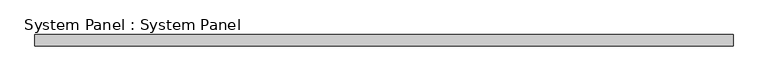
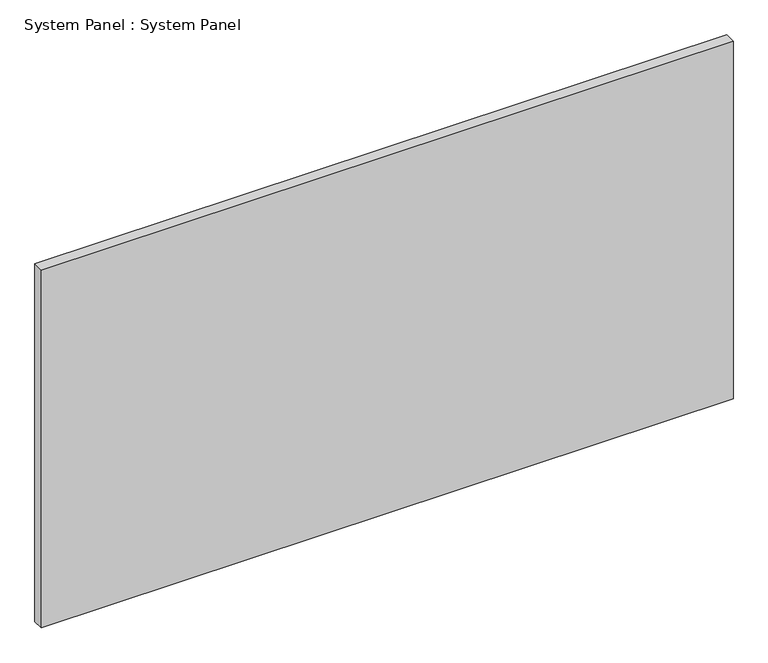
"""IFC4 building model written with IfcOpenShell, lengths in millimetres: plate geometry, System Panel : System Panel."""

from ifc_helpers import new_model, si_unit, origin, origin_with_axes, place, context, project, spatial, polyline, outline, extrude, source, transform, mapped, element, save


def system_panel_system_panel_1c682c2c(model_context):
    return source(origin(), model_context, "Body", "SweptSolid", [
        extrude(outline(polyline([(784.225, 19.05), (-784.225, 19.05), (-784.225, 44.45), (784.225, 44.45), (784.225, 19.05)])), origin_with_axes(), (0.0, 0.0, 1.0), 857.25),
    ])


if __name__ == "__main__":
    model = new_model("IFC4")
    model_context = context("Model", 3, world=origin())
    ifc_project = project(units=[si_unit("LENGTHUNIT", "METRE", prefix="MILLI")], contexts=[model_context])
    site = spatial("IfcSite", under=ifc_project)
    building = spatial("IfcBuilding", under=site)
    placement = place(None, origin())
    system_panel_system_panel_shape = system_panel_system_panel_1c682c2c(model_context)
    element("IfcPlate", 1, ObjectType="System Panel : System Panel", at=placement, inside=building, context=model_context, shape_type="MappedRepresentation", body=[
        mapped(system_panel_system_panel_shape, transform((0.0, 0.0, 0.0), x_axis=(1.0, 0.0, 0.0), y_axis=(0.0, 1.0, 0.0), z_axis=(0.0, 0.0, 1.0))),
    ])
    save(model, "model.ifc")
